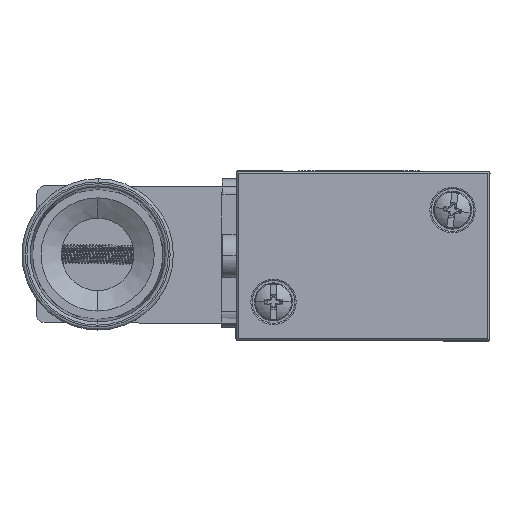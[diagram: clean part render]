
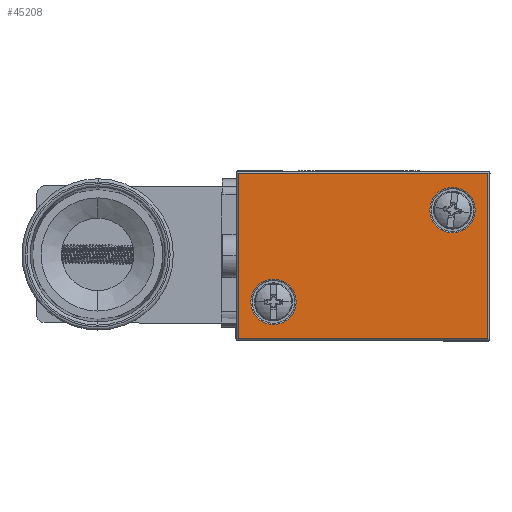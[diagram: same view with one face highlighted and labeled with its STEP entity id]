
A CAD part, left-side view. The second image highlights one B-rep face of the part: STEP entity #45208.
In plain terms, the highlighted planar face has unit normal (-1, 0, 0) as drawn and (1, 0, 0) by its records, which use the part's own axes.
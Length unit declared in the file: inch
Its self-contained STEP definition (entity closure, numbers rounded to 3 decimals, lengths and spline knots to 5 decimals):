
#34 = DIRECTION ( 'NONE',  ( 0., 0., -1. ) ) ;
#72 = VERTEX_POINT ( 'NONE', #32123 ) ;
#307 = DIRECTION ( 'NONE',  ( -1., 0., 0. ) ) ;
#670 = EDGE_CURVE ( 'NONE', #56502, #64342, #19616, .T. ) ;
#1555 = LINE ( 'NONE', #73084, #59607 ) ;
#3923 = EDGE_CURVE ( 'NONE', #76910, #72, #14466, .T. ) ;
#5196 = AXIS2_PLACEMENT_3D ( 'NONE', #57384, #21526, #63417 ) ;
#5428 = EDGE_LOOP ( 'NONE', ( #68277, #72186, #17951, #31468 ) ) ;
#7834 = CARTESIAN_POINT ( 'NONE',  ( 0.27559, -0.556, -0.42587 ) ) ;
#14466 = CIRCLE ( 'NONE', #39161, 0.14087 ) ;
#16192 = CARTESIAN_POINT ( 'NONE',  ( 0.27559, 0.77566, 0.515 ) ) ;
#16636 = AXIS2_PLACEMENT_3D ( 'NONE', #65752, #35872, #34 ) ;
#17012 = AXIS2_PLACEMENT_3D ( 'NONE', #58800, #22941, #64815 ) ;
#17951 = ORIENTED_EDGE ( 'NONE', *, *, #26947, .T. ) ;
#19616 = CIRCLE ( 'NONE', #17012, 0.14087 ) ;
#21320 = DIRECTION ( 'NONE',  ( 0., -1., 0. ) ) ;
#21526 = DIRECTION ( 'NONE',  ( -1., 0., 0. ) ) ;
#22125 = DIRECTION ( 'NONE',  ( -1., 0., 0. ) ) ;
#22941 = DIRECTION ( 'NONE',  ( -1., 0., 0. ) ) ;
#24205 = EDGE_LOOP ( 'NONE', ( #53310, #40866 ) ) ;
#26947 = EDGE_CURVE ( 'NONE', #31830, #34925, #34112, .T. ) ;
#28594 = CIRCLE ( 'NONE', #5196, 0.14087 ) ;
#28798 = DIRECTION ( 'NONE',  ( 0., 0., -1. ) ) ;
#31468 = ORIENTED_EDGE ( 'NONE', *, *, #54285, .T. ) ;
#31830 = VERTEX_POINT ( 'NONE', #64519 ) ;
#32123 = CARTESIAN_POINT ( 'NONE',  ( 0.27559, 0.556, 0.42587 ) ) ;
#33472 = CARTESIAN_POINT ( 'NONE',  ( 0.27559, -0.77566, -0.515 ) ) ;
#34112 = LINE ( 'NONE', #51212, #64125 ) ;
#34925 = VERTEX_POINT ( 'NONE', #66898 ) ;
#35872 = DIRECTION ( 'NONE',  ( 1., 0., 0. ) ) ;
#36155 = CARTESIAN_POINT ( 'NONE',  ( 0.27559, 0.556, 0.285 ) ) ;
#36258 = CARTESIAN_POINT ( 'NONE',  ( 0.27559, -0.77566, -0.51466 ) ) ;
#38038 = VECTOR ( 'NONE', #28798, 39.37008 ) ;
#39161 = AXIS2_PLACEMENT_3D ( 'NONE', #57968, #22125, #64010 ) ;
#40747 = VECTOR ( 'NONE', #70084, 39.37008 ) ;
#40784 = FACE_OUTER_BOUND ( 'NONE', #5428, .T. ) ;
#40866 = ORIENTED_EDGE ( 'NONE', *, *, #64699, .T. ) ;
#42223 = DIRECTION ( 'NONE',  ( 0., 0., -1. ) ) ;
#43751 = CARTESIAN_POINT ( 'NONE',  ( 0.27559, -0.556, -0.14413 ) ) ;
#44192 = EDGE_CURVE ( 'NONE', #66805, #76737, #1555, .T. ) ;
#44289 = CARTESIAN_POINT ( 'NONE',  ( 0.27559, 0.77566, -0.51466 ) ) ;
#45208 = ADVANCED_FACE ( 'NONE', ( #40784, #56691, #74409 ), #71729, .T. ) ;
#49850 = DIRECTION ( 'NONE',  ( 0., 1., 0. ) ) ;
#51212 = CARTESIAN_POINT ( 'NONE',  ( 0.27559, -0.776, 0.51466 ) ) ;
#52678 = EDGE_LOOP ( 'NONE', ( #75557, #62064 ) ) ;
#53310 = ORIENTED_EDGE ( 'NONE', *, *, #3923, .T. ) ;
#54285 = EDGE_CURVE ( 'NONE', #34925, #66805, #69827, .T. ) ;
#56502 = VERTEX_POINT ( 'NONE', #43751 ) ;
#56691 = FACE_BOUND ( 'NONE', #52678, .T. ) ;
#57384 = CARTESIAN_POINT ( 'NONE',  ( 0.27559, -0.556, -0.285 ) ) ;
#57968 = CARTESIAN_POINT ( 'NONE',  ( 0.27559, 0.556, 0.285 ) ) ;
#58800 = CARTESIAN_POINT ( 'NONE',  ( 0.27559, -0.556, -0.285 ) ) ;
#59607 = VECTOR ( 'NONE', #49850, 39.37008 ) ;
#62064 = ORIENTED_EDGE ( 'NONE', *, *, #670, .T. ) ;
#63417 = DIRECTION ( 'NONE',  ( 0., 0., -1. ) ) ;
#64010 = DIRECTION ( 'NONE',  ( 0., 0., -1. ) ) ;
#64122 = CARTESIAN_POINT ( 'NONE',  ( 0.27559, 0.556, 0.14413 ) ) ;
#64125 = VECTOR ( 'NONE', #21320, 39.37008 ) ;
#64342 = VERTEX_POINT ( 'NONE', #7834 ) ;
#64519 = CARTESIAN_POINT ( 'NONE',  ( 0.27559, 0.77566, 0.51466 ) ) ;
#64699 = EDGE_CURVE ( 'NONE', #72, #76910, #70933, .T. ) ;
#64815 = DIRECTION ( 'NONE',  ( 0., 0., -1. ) ) ;
#65752 = CARTESIAN_POINT ( 'NONE',  ( 0.27559, -0.776, 0.515 ) ) ;
#65952 = EDGE_CURVE ( 'NONE', #64342, #56502, #28594, .T. ) ;
#66805 = VERTEX_POINT ( 'NONE', #36258 ) ;
#66898 = CARTESIAN_POINT ( 'NONE',  ( 0.27559, -0.77566, 0.51466 ) ) ;
#68277 = ORIENTED_EDGE ( 'NONE', *, *, #44192, .T. ) ;
#69827 = LINE ( 'NONE', #33472, #38038 ) ;
#70084 = DIRECTION ( 'NONE',  ( 0., 0., 1. ) ) ;
#70252 = AXIS2_PLACEMENT_3D ( 'NONE', #36155, #307, #42223 ) ;
#70933 = CIRCLE ( 'NONE', #70252, 0.14087 ) ;
#71729 = PLANE ( 'NONE',  #16636 ) ;
#72186 = ORIENTED_EDGE ( 'NONE', *, *, #76905, .T. ) ;
#73084 = CARTESIAN_POINT ( 'NONE',  ( 0.27559, 0.776, -0.51466 ) ) ;
#74409 = FACE_BOUND ( 'NONE', #24205, .T. ) ;
#75557 = ORIENTED_EDGE ( 'NONE', *, *, #65952, .T. ) ;
#76280 = LINE ( 'NONE', #16192, #40747 ) ;
#76737 = VERTEX_POINT ( 'NONE', #44289 ) ;
#76905 = EDGE_CURVE ( 'NONE', #76737, #31830, #76280, .T. ) ;
#76910 = VERTEX_POINT ( 'NONE', #64122 ) ;
